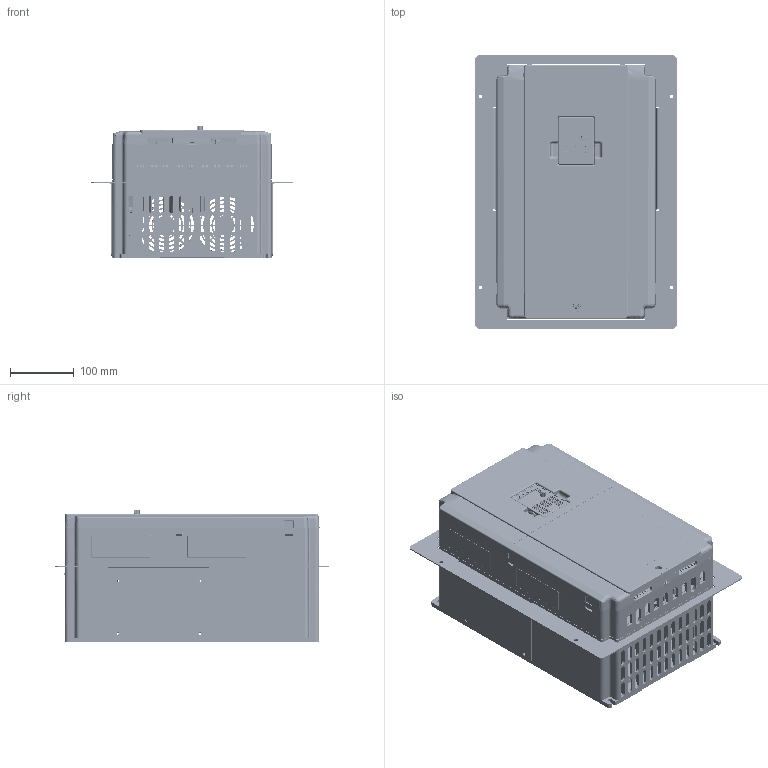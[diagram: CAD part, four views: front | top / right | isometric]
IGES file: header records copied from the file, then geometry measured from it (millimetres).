
Start section: SolidWorks IGES file using analytic representation for surfaces
Global section: file name: Z:\Products\VFD\UMI-B1\B1\UMI-0[300~370]EE-B1\CAD FILES\3D CAD File\UMI-0[300~370]EE-B1.IGS; native system: SolidWorks 2017; preprocessor: SolidWorks 2017; author: LaorB; date: 200326.183333; units: millimetre
Bounding box: 316 x 430 x 208.35 mm (x, y, z)
Surface area: 1804622.9 mm2 (no closed solid volume)
Topology: 0 solids, 0 shells, 9542 faces, 92908 edges, 92852 vertices
Faces by surface type: bspline 6795, revolution 2747
